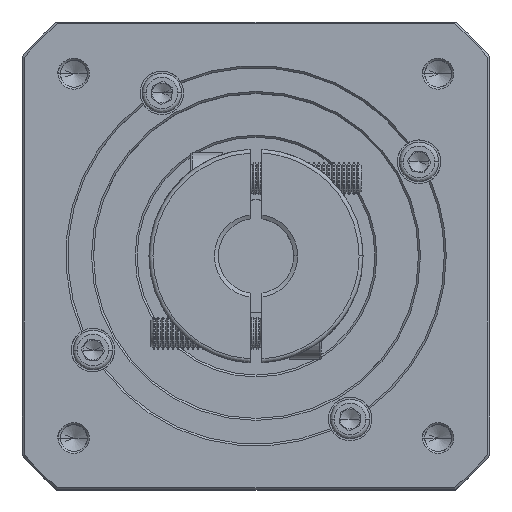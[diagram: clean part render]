
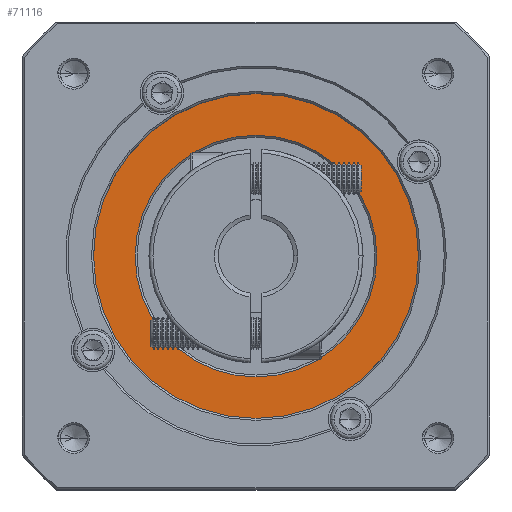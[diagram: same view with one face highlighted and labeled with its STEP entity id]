
A CAD part, top view. The second image highlights one B-rep face of the part: STEP entity #71116.
In plain terms, the highlighted planar face has unit normal (0, 0, 1).
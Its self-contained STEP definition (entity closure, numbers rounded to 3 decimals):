
#515 = DIRECTION ( 'NONE',  ( 1., 0., 0. ) ) ;
#5645 = CARTESIAN_POINT ( 'NONE',  ( 73.348, 138.859, 38.453 ) ) ;
#6024 = VERTEX_POINT ( 'NONE', #89103 ) ;
#7252 = PLANE ( 'NONE',  #103160 ) ;
#9126 = DIRECTION ( 'NONE',  ( 1., 0., 0. ) ) ;
#12412 = EDGE_CURVE ( 'NONE', #25004, #6024, #56358, .T. ) ;
#12442 = CIRCLE ( 'NONE', #13792, 41. ) ;
#13792 = AXIS2_PLACEMENT_3D ( 'NONE', #113483, #57006, #515 ) ;
#14249 = AXIS2_PLACEMENT_3D ( 'NONE', #5645, #71608, #15098 ) ;
#14436 = DIRECTION ( 'NONE',  ( 0., 0., -1. ) ) ;
#15098 = DIRECTION ( 'NONE',  ( 0., -1., 0. ) ) ;
#25004 = VERTEX_POINT ( 'NONE', #43259 ) ;
#26637 = CARTESIAN_POINT ( 'NONE',  ( 73.348, 138.859, 38.453 ) ) ;
#30871 = VERTEX_POINT ( 'NONE', #87579 ) ;
#36104 = DIRECTION ( 'NONE',  ( 1., 0., 0. ) ) ;
#40158 = CIRCLE ( 'NONE', #93370, 30.5 ) ;
#42241 = AXIS2_PLACEMENT_3D ( 'NONE', #122174, #65623, #9126 ) ;
#43259 = CARTESIAN_POINT ( 'NONE',  ( 73.348, 108.359, 38.453 ) ) ;
#48099 = ORIENTED_EDGE ( 'NONE', *, *, #93865, .T. ) ;
#56358 = CIRCLE ( 'NONE', #14249, 30.5 ) ;
#56463 = FACE_OUTER_BOUND ( 'NONE', #101518, .T. ) ;
#57006 = DIRECTION ( 'NONE',  ( 0., 0., 1. ) ) ;
#59402 = FACE_BOUND ( 'NONE', #80066, .T. ) ;
#62606 = CARTESIAN_POINT ( 'NONE',  ( 32.348, 138.859, 38.453 ) ) ;
#65623 = DIRECTION ( 'NONE',  ( 0., 0., 1. ) ) ;
#69190 = ORIENTED_EDGE ( 'NONE', *, *, #119470, .T. ) ;
#70951 = CARTESIAN_POINT ( 'NONE',  ( 73.348, 138.859, 38.453 ) ) ;
#71116 = ADVANCED_FACE ( 'NONE', ( #56463, #59402 ), #7252, .T. ) ;
#71608 = DIRECTION ( 'NONE',  ( 0., 0., -1. ) ) ;
#77223 = EDGE_CURVE ( 'NONE', #120488, #30871, #84060, .T. ) ;
#80066 = EDGE_LOOP ( 'NONE', ( #116960, #48099 ) ) ;
#80416 = DIRECTION ( 'NONE',  ( 0., -1., 0. ) ) ;
#84060 = CIRCLE ( 'NONE', #42241, 41. ) ;
#87579 = CARTESIAN_POINT ( 'NONE',  ( 114.348, 138.859, 38.453 ) ) ;
#89103 = CARTESIAN_POINT ( 'NONE',  ( 73.348, 169.359, 38.453 ) ) ;
#92114 = ORIENTED_EDGE ( 'NONE', *, *, #77223, .T. ) ;
#92581 = DIRECTION ( 'NONE',  ( 0., 0., 1. ) ) ;
#93370 = AXIS2_PLACEMENT_3D ( 'NONE', #70951, #14436, #80416 ) ;
#93865 = EDGE_CURVE ( 'NONE', #6024, #25004, #40158, .T. ) ;
#101518 = EDGE_LOOP ( 'NONE', ( #69190, #92114 ) ) ;
#103160 = AXIS2_PLACEMENT_3D ( 'NONE', #26637, #92581, #36104 ) ;
#113483 = CARTESIAN_POINT ( 'NONE',  ( 73.348, 138.859, 38.453 ) ) ;
#116960 = ORIENTED_EDGE ( 'NONE', *, *, #12412, .T. ) ;
#119470 = EDGE_CURVE ( 'NONE', #30871, #120488, #12442, .T. ) ;
#120488 = VERTEX_POINT ( 'NONE', #62606 ) ;
#122174 = CARTESIAN_POINT ( 'NONE',  ( 73.348, 138.859, 38.453 ) ) ;
